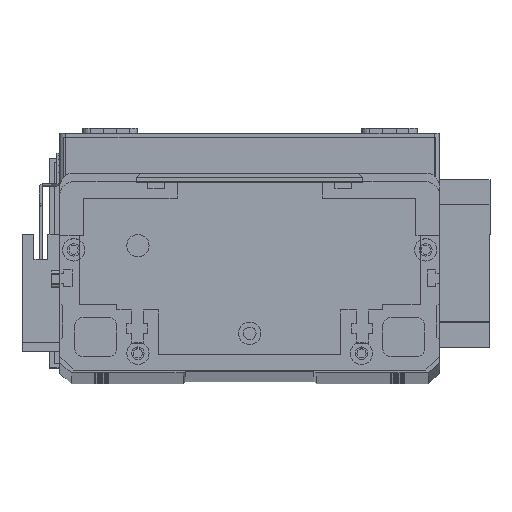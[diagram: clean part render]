
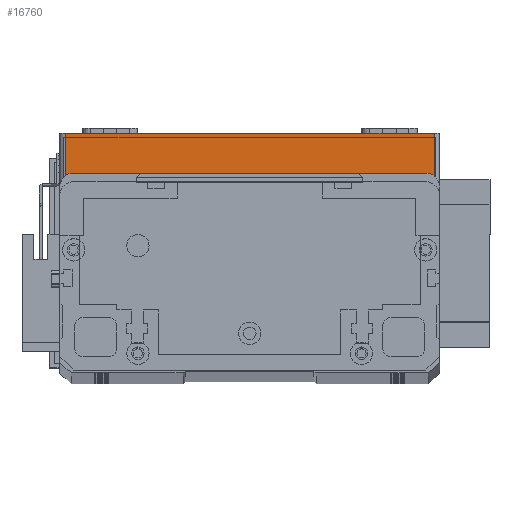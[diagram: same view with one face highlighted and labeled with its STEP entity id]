
A CAD part, top view. The second image highlights one B-rep face of the part: STEP entity #16760.
In plain terms, the highlighted planar face has unit normal (0, 0, 1) as drawn and (0, -1, 0) by its records, which use the part's own axes.
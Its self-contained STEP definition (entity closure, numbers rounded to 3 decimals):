
#1360 = EDGE_LOOP ( 'NONE', ( #17108, #14174, #13393, #10064 ) ) ;
#1556 = FACE_OUTER_BOUND ( 'NONE', #1360, .T. ) ;
#1929 = VERTEX_POINT ( 'NONE', #17481 ) ;
#2804 = EDGE_CURVE ( 'NONE', #12891, #1929, #13210, .T. ) ;
#3334 = LINE ( 'NONE', #7942, #21331 ) ;
#5011 = CARTESIAN_POINT ( 'NONE',  ( 134., 0., 0. ) ) ;
#5268 = CARTESIAN_POINT ( 'NONE',  ( 2., 0., 19.5 ) ) ;
#5751 = LINE ( 'NONE', #18625, #23754 ) ;
#6168 = DIRECTION ( 'NONE',  ( 1., 0., 0. ) ) ;
#6980 = VECTOR ( 'NONE', #6168, 1000. ) ;
#7942 = CARTESIAN_POINT ( 'NONE',  ( 0., 0., 0. ) ) ;
#8360 = VERTEX_POINT ( 'NONE', #9914 ) ;
#8756 = EDGE_CURVE ( 'NONE', #12891, #8360, #5751, .T. ) ;
#8779 = CARTESIAN_POINT ( 'NONE',  ( 134., 0., 19.5 ) ) ;
#9914 = CARTESIAN_POINT ( 'NONE',  ( 2., 0., 0. ) ) ;
#10064 = ORIENTED_EDGE ( 'NONE', *, *, #17416, .T. ) ;
#10432 = DIRECTION ( 'NONE',  ( 0., 0., 1. ) ) ;
#12677 = DIRECTION ( 'NONE',  ( 0., 1., 0. ) ) ;
#12891 = VERTEX_POINT ( 'NONE', #5268 ) ;
#13144 = CARTESIAN_POINT ( 'NONE',  ( 0., 0., 19.5 ) ) ;
#13210 = LINE ( 'NONE', #13144, #6980 ) ;
#13393 = ORIENTED_EDGE ( 'NONE', *, *, #17790, .T. ) ;
#13925 = AXIS2_PLACEMENT_3D ( 'NONE', #22128, #12677, #10432 ) ;
#14174 = ORIENTED_EDGE ( 'NONE', *, *, #8756, .T. ) ;
#15114 = VECTOR ( 'NONE', #18187, 1000. ) ;
#16568 = LINE ( 'NONE', #8779, #15114 ) ;
#16760 = ADVANCED_FACE ( 'NONE', ( #1556 ), #24502, .F. ) ;
#17108 = ORIENTED_EDGE ( 'NONE', *, *, #2804, .F. ) ;
#17416 = EDGE_CURVE ( 'NONE', #18252, #1929, #16568, .T. ) ;
#17481 = CARTESIAN_POINT ( 'NONE',  ( 134., 0., 19.5 ) ) ;
#17790 = EDGE_CURVE ( 'NONE', #8360, #18252, #3334, .T. ) ;
#18187 = DIRECTION ( 'NONE',  ( 0., 0., 1. ) ) ;
#18252 = VERTEX_POINT ( 'NONE', #5011 ) ;
#18625 = CARTESIAN_POINT ( 'NONE',  ( 2., 0., 19.5 ) ) ;
#21331 = VECTOR ( 'NONE', #21988, 1000. ) ;
#21988 = DIRECTION ( 'NONE',  ( 1., 0., 0. ) ) ;
#22128 = CARTESIAN_POINT ( 'NONE',  ( 0., 0., 19.5 ) ) ;
#23754 = VECTOR ( 'NONE', #28069, 1000. ) ;
#24502 = PLANE ( 'NONE',  #13925 ) ;
#28069 = DIRECTION ( 'NONE',  ( 0., 0., -1. ) ) ;
